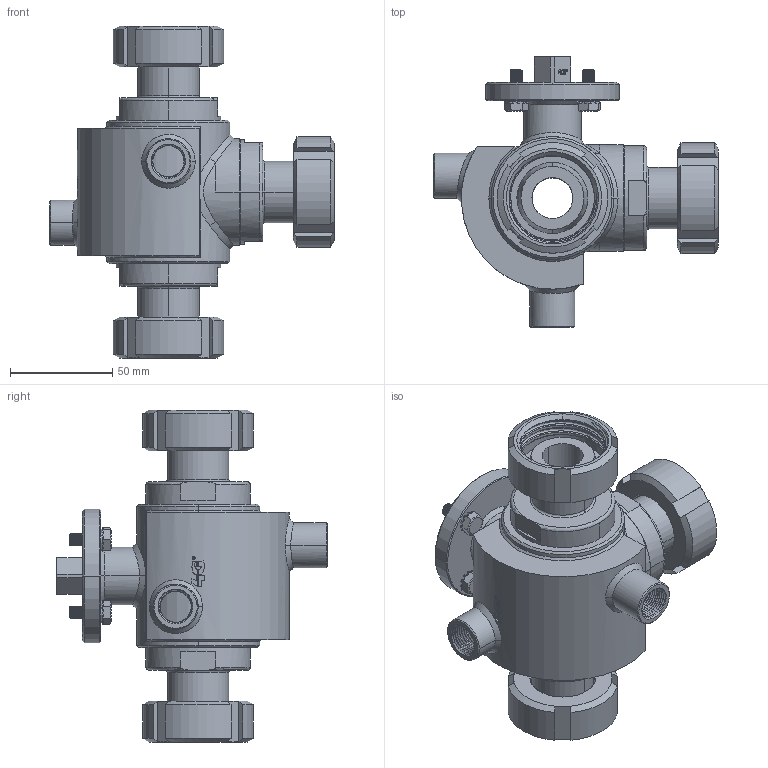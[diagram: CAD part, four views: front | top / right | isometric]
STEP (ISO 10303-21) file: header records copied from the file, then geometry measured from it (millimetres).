
FILE_DESCRIPTION((''),'2;1');
FILE_NAME('303027C6201F_SW0001','2025-01-24T17:00:28',('tecnico2'),('CDM Tecnoconsulting'),'CREO PARAMETRIC BY PTC INC, 2024063','CREO PARAMETRIC BY PTC INC, 2024063','');
FILE_SCHEMA(('CONFIG_CONTROL_DESIGN','SHAPE_APPEARANCE_LAYERS_GROUPS'));
Products named in the file (1): 303027C6201F_SW0001
Bounding box: 139 x 132 x 162 mm (x, y, z)
Volume: 371053.9 mm3; surface area: 136847.9 mm2
Topology: 4 solids, 4 shells, 2024 faces, 5537 edges, 3504 vertices
Faces by surface type: plane 796, cylinder 519, cone 231, bspline 211, extrusion 167, torus 98, sphere 2
Entity records: 163052 total; most frequent: CARTESIAN_POINT 98467, ORIENTED_EDGE 11054, DIRECTION 7976, PRESENTATION_STYLE_ASSIGNMENT 5616, STYLED_ITEM 5531, CURVE_STYLE 5527, EDGE_CURVE 5527, VERTEX_POINT 3504
